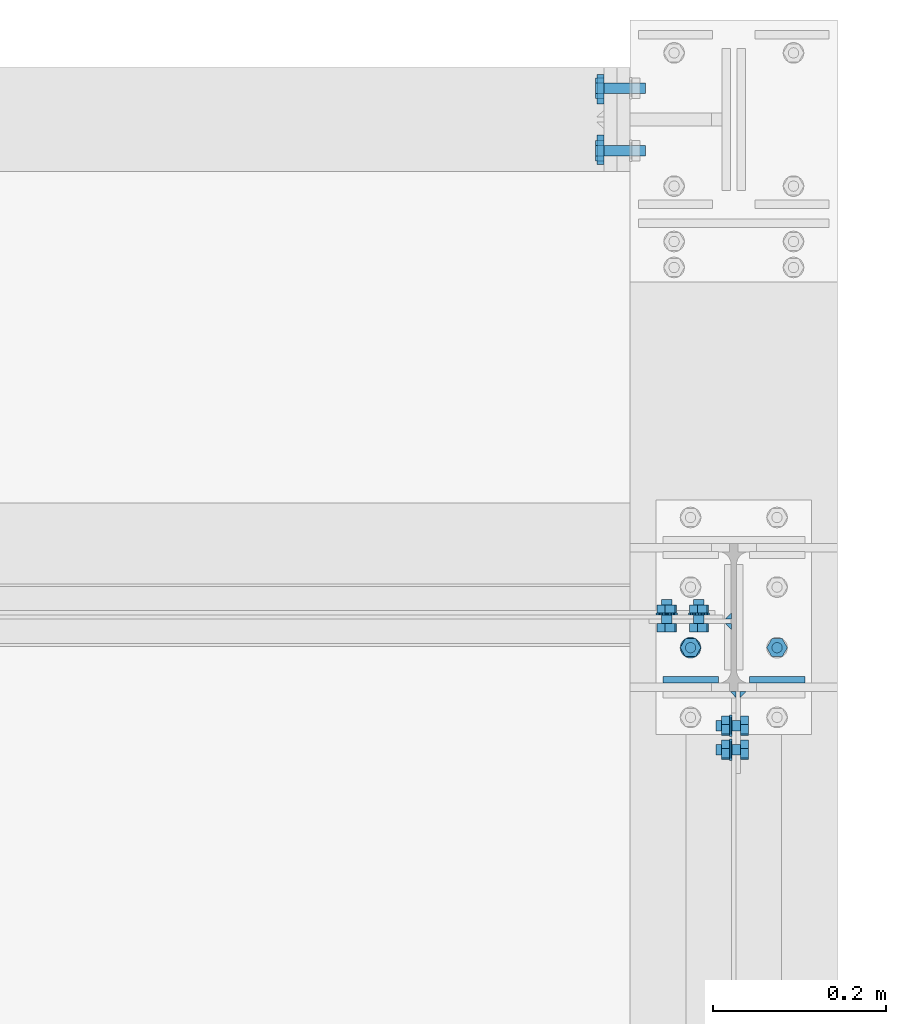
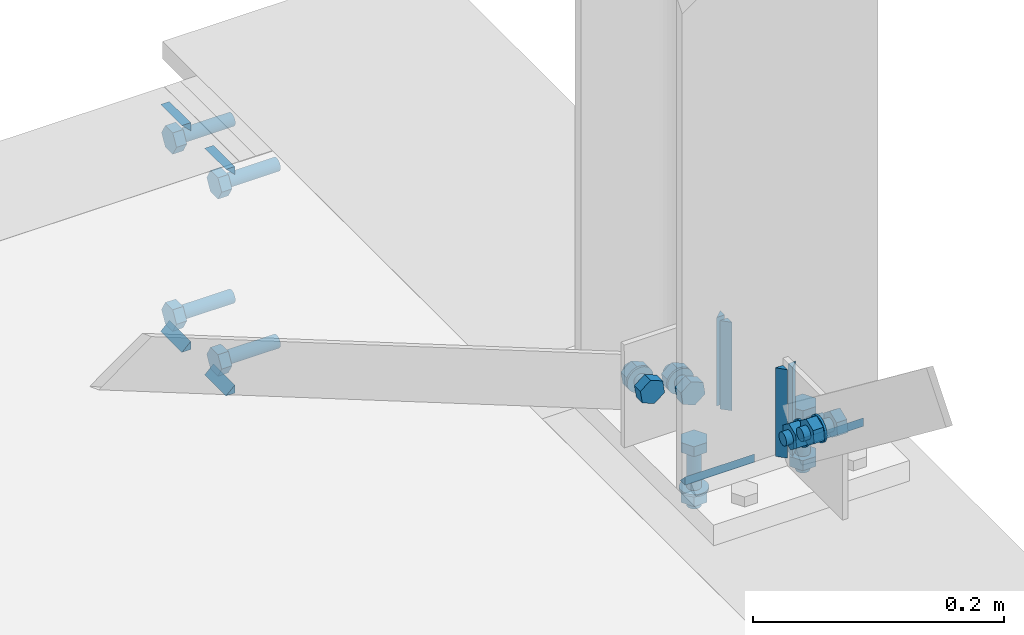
# One storey, part 63 of 66: 31 mechanical fasteners, 16 fasteners.
"""IFC4 building model written with IfcOpenShell, lengths in metres."""

from ifc_helpers import new_model, si_unit, frame, origin_with_axes, place, context, project, spatial, polyline, outline, extrude, type_object, element, save


model = new_model("IFC4")

# Units and contexts
model_context = context("Model", 3, precision=1e-05, world=origin_with_axes())
ifc_project = project(units=[si_unit("LENGTHUNIT", "METRE"), si_unit("AREAUNIT", "SQUARE_METRE"), si_unit("VOLUMEUNIT", "CUBIC_METRE"), si_unit("MASSUNIT", "GRAM", prefix="KILO"), si_unit("TIMEUNIT", "SECOND"), si_unit("PLANEANGLEUNIT", "RADIAN"), si_unit("SOLIDANGLEUNIT", "STERADIAN"), si_unit("THERMODYNAMICTEMPERATUREUNIT", "DEGREE_CELSIUS")], contexts=[model_context])

# Site, building, storey
placement_1 = place(None, origin_with_axes())
site = spatial("IfcSite", under=ifc_project, at=placement_1, Name="Italia", CompositionType="ELEMENT")
building = spatial("IfcBuilding", under=site, at=placement_1, Name="Uffici", CompositionType="ELEMENT")
storey_placement = place(None, frame((0.0, 0.0, 3.299999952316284), z_axis=(0.0, 0.0, 1.0), x_axis=(1.0, 0.0, 0.0)))
storey = spatial("IfcBuildingStorey", under=building, at=storey_placement, Name="Storey 1", CompositionType="ELEMENT", Elevation=3.299999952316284)

# Fasteners
fastener_type_1 = type_object("IfcFastenerType", Name="Collegamenti -005_-004 -015_-014 0115_0114", PredefinedType="WELD")
placement_2 = place(placement_1, origin_with_axes())
fastener_1_placement = place(placement_2, origin_with_axes())
element("IfcFastener", 1, at=fastener_1_placement, inside=storey, type_object=fastener_type_1, Name="Collegamenti -005_-004 -015_-014 0115_0114", context=model_context, shape_type="SweptSolid", body=[
    extrude(outline(polyline([(0.0, 0.0), (-0.00817299, 0.00792813), (0.0, 0.00792813), (0.0, 0.0)])), frame((13.8201, 5.37195, 3.28232), z_axis=(0.0, -1.0, 0.0), x_axis=(1.0, 0.0, 0.0)), (0.0, 0.0, 1.0), 0.0339999),
])
fastener_type_2 = type_object("IfcFastenerType", Name="Collegamenti -005_-004 -015_-014 0115_0114", PredefinedType="WELD")
fastener_2_placement = place(placement_2, origin_with_axes())
element("IfcFastener", 2, at=fastener_2_placement, inside=storey, type_object=fastener_type_2, Name="Collegamenti -005_-004 -015_-014 0115_0114", context=model_context, shape_type="SweptSolid", body=[
    extrude(outline(polyline([(0.0, 0.0), (0.00817299, -0.00792813), (0.0, -0.00792813), (0.0, 0.0)])), frame((13.8201, 5.33795, 3.07768), z_axis=(0.0, 1.0, 0.0), x_axis=(-1.0, 0.0, 0.0)), (0.0, 0.0, 1.0), 0.0339999),
])
fastener_type_3 = type_object("IfcFastenerType", Name="Collegamenti -005_-004 -015_-014 0115_0114", PredefinedType="WELD")
fastener_3_placement = place(placement_2, origin_with_axes())
element("IfcFastener", 3, at=fastener_3_placement, inside=storey, type_object=fastener_type_3, Name="Collegamenti -005_-004 -015_-014 0115_0114", context=model_context, shape_type="SweptSolid", body=[
    extrude(outline(polyline([(0.0, 0.0), (0.00817299, -0.00792813), (0.0, -0.00792813), (0.0, 0.0)])), frame((13.8201, 5.40805, 3.07768), z_axis=(0.0, 1.0, 0.0), x_axis=(-1.0, 0.0, 0.0)), (0.0, 0.0, 1.0), 0.0339999),
])
fastener_type_4 = type_object("IfcFastenerType", Name="Collegamenti -005_-004 -015_-014 0115_0114", PredefinedType="WELD")
fastener_4_placement = place(placement_2, origin_with_axes())
element("IfcFastener", 4, at=fastener_4_placement, inside=storey, type_object=fastener_type_4, Name="Collegamenti -005_-004 -015_-014 0115_0114", context=model_context, shape_type="SweptSolid", body=[
    extrude(outline(polyline([(0.0, 0.0), (-0.00817299, 0.00792813), (0.0, 0.00792813), (0.0, 0.0)])), frame((13.8201, 5.44205, 3.28232), z_axis=(0.0, -1.0, 0.0), x_axis=(1.0, 0.0, 0.0)), (0.0, 0.0, 1.0), 0.0339999),
])
fastener_type_5 = type_object("IfcFastenerType", Name="Collegamenti -005_-004 -015_-014 0115_0114", PredefinedType="WELD")
fastener_5_placement = place(placement_2, origin_with_axes())
element("IfcFastener", 5, at=fastener_5_placement, inside=storey, type_object=fastener_type_5, Name="Collegamenti -005_-004 -015_-014 0115_0114", context=model_context, shape_type="SweptSolid", body=[
    extrude(outline(polyline([(0.0, 0.0), (-0.00817299, 0.00792813), (0.0, 0.00792813), (0.0, 0.0)])), frame((13.8201, 5.37195, 3.28232), z_axis=(0.0, -1.0, 0.0), x_axis=(1.0, 0.0, 0.0)), (0.0, 0.0, 1.0), 0.0339999),
])
fastener_type_6 = type_object("IfcFastenerType", Name="Collegamenti -005_-004 -015_-014 0115_0114", PredefinedType="WELD")
fastener_6_placement = place(placement_2, origin_with_axes())
element("IfcFastener", 6, at=fastener_6_placement, inside=storey, type_object=fastener_type_6, Name="Collegamenti -005_-004 -015_-014 0115_0114", context=model_context, shape_type="SweptSolid", body=[
    extrude(outline(polyline([(0.0, 0.0), (0.00817299, -0.00792813), (0.0, -0.00792813), (0.0, 0.0)])), frame((13.8201, 5.33795, 3.07768), z_axis=(0.0, 1.0, 0.0), x_axis=(-1.0, 0.0, 0.0)), (0.0, 0.0, 1.0), 0.0339999),
])
fastener_type_7 = type_object("IfcFastenerType", Name="Collegamenti -005_-004 -015_-014 0115_0114", PredefinedType="WELD")
fastener_7_placement = place(placement_2, origin_with_axes())
element("IfcFastener", 7, at=fastener_7_placement, inside=storey, type_object=fastener_type_7, Name="Collegamenti -005_-004 -015_-014 0115_0114", context=model_context, shape_type="SweptSolid", body=[
    extrude(outline(polyline([(0.0, 0.0), (0.00817299, -0.00792813), (0.0, -0.00792813), (0.0, 0.0)])), frame((13.8201, 5.40805, 3.07768), z_axis=(0.0, 1.0, 0.0), x_axis=(-1.0, 0.0, 0.0)), (0.0, 0.0, 1.0), 0.0339999),
])
fastener_type_8 = type_object("IfcFastenerType", Name="Collegamenti -005_-004 -015_-014 0115_0114", PredefinedType="WELD")
fastener_8_placement = place(placement_2, origin_with_axes())
element("IfcFastener", 8, at=fastener_8_placement, inside=storey, type_object=fastener_type_8, Name="Collegamenti -005_-004 -015_-014 0115_0114", context=model_context, shape_type="SweptSolid", body=[
    extrude(outline(polyline([(0.0, 0.0), (-0.00817299, 0.00792813), (0.0, 0.00792813), (0.0, 0.0)])), frame((13.8201, 5.44205, 3.28232), z_axis=(0.0, -1.0, 0.0), x_axis=(1.0, 0.0, 0.0)), (0.0, 0.0, 1.0), 0.0339999),
])

# Mechanical fasteners
mechanical_fastener_type_1 = type_object("IfcMechanicalFastenerType", Name="Collegamenti -005_-004 -015_-014 0115_0114", PredefinedType="BOLT")
mechanical_fastener_1_placement = place(placement_2, origin_with_axes())
element("IfcMechanicalFastener", 9, at=mechanical_fastener_1_placement, inside=storey, type_object=mechanical_fastener_type_1, Name="Collegamenti -005_-004 -015_-014 0115_0114", NominalDiameter=0.0119997, context=model_context, shape_type="SweptSolid", body=[
    extrude(outline(polyline([(0.0, 0.0), (-0.0120001, 0.0), (-0.0180001, 0.0103924), (-0.0120001, 0.0207846), (0.0, 0.0207846), (0.00599957, 0.0103924), (0.0, 0.0)])), frame((13.82, 5.42, 3.08361), z_axis=(-1.0, 0.0, 0.0), x_axis=(0.0, -1.0, 0.0)), (0.0, 0.0, 1.0), 0.00960064),
])
mechanical_fastener_type_2 = type_object("IfcMechanicalFastenerType", Name="Collegamenti -005_-004 -015_-014 0115_0114", PredefinedType="BOLT")
mechanical_fastener_2_placement = place(placement_2, origin_with_axes())
element("IfcMechanicalFastener", 10, at=mechanical_fastener_2_placement, inside=storey, type_object=mechanical_fastener_type_2, Name="Collegamenti -005_-004 -015_-014 0115_0114", NominalDiameter=0.012, context=model_context, shape_type="SweptSolid", body=[
    extrude(outline(polyline([(0.0, 0.0), (-0.000204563, -0.00155282), (-0.000803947, -0.00300002), (-0.00175762, -0.00424266), (-0.00300026, -0.00519609), (-0.00444698, -0.00579548), (-0.00600004, -0.00600004), (-0.0075531, -0.00579548), (-0.00899982, -0.00519609), (-0.0102425, -0.00424266), (-0.0111961, -0.00300002), (-0.0117955, -0.00155282), (-0.0120001, 0.0), (-0.0117955, 0.00155282), (-0.0111961, 0.00300002), (-0.0102425, 0.00424266), (-0.00899982, 0.00519609), (-0.0075531, 0.00579548), (-0.00600004, 0.00600004), (-0.00444698, 0.00579548), (-0.00300026, 0.00519609), (-0.00175762, 0.00424266), (-0.000803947, 0.00300002), (-0.000204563, 0.00155282), (0.0, 0.0)])), frame((13.868, 5.42, 3.094), z_axis=(-1.0, 0.0, 0.0), x_axis=(0.0, -1.0, 0.0)), (0.0, 0.0, 1.0), 0.0479994),
])
mechanical_fastener_type_3 = type_object("IfcMechanicalFastenerType", Name="Collegamenti -005_-004 -015_-014 0115_0114", PredefinedType="BOLT")
mechanical_fastener_3_placement = place(placement_2, origin_with_axes())
element("IfcMechanicalFastener", 11, at=mechanical_fastener_3_placement, inside=storey, type_object=mechanical_fastener_type_3, Name="Collegamenti -005_-004 -015_-014 0115_0114", NominalDiameter=0.0119997, context=model_context, shape_type="SweptSolid", body=[
    extrude(outline(polyline([(0.0, 0.0), (-0.0120001, 0.0), (-0.0179996, 0.0103924), (-0.0120001, 0.0207846), (0.0, 0.0207846), (0.00600004, 0.0103924), (0.0, 0.0)])), frame((13.82, 5.348, 3.08361), z_axis=(-1.0, 0.0, 0.0), x_axis=(0.0, -1.0, 0.0)), (0.0, 0.0, 1.0), 0.00960064),
])
mechanical_fastener_type_4 = type_object("IfcMechanicalFastenerType", Name="Collegamenti -005_-004 -015_-014 0115_0114", PredefinedType="BOLT")
mechanical_fastener_4_placement = place(placement_2, origin_with_axes())
element("IfcMechanicalFastener", 12, at=mechanical_fastener_4_placement, inside=storey, type_object=mechanical_fastener_type_4, Name="Collegamenti -005_-004 -015_-014 0115_0114", NominalDiameter=0.012, context=model_context, shape_type="SweptSolid", body=[
    extrude(outline(polyline([(0.0, 0.0), (-0.000204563, -0.00155282), (-0.000803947, -0.00300002), (-0.00175762, -0.00424266), (-0.00300026, -0.00519609), (-0.00444698, -0.00579548), (-0.00600004, -0.00600004), (-0.0075531, -0.00579548), (-0.00899982, -0.00519609), (-0.0102425, -0.00424266), (-0.0111961, -0.00300002), (-0.0117955, -0.00155282), (-0.0120001, 0.0), (-0.0117955, 0.00155282), (-0.0111961, 0.00300002), (-0.0102425, 0.00424266), (-0.00899982, 0.00519609), (-0.0075531, 0.00579548), (-0.00600004, 0.00600004), (-0.00444698, 0.00579548), (-0.00300026, 0.00519609), (-0.00175762, 0.00424266), (-0.000803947, 0.00300002), (-0.000204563, 0.00155282), (0.0, 0.0)])), frame((13.868, 5.348, 3.094), z_axis=(-1.0, 0.0, 0.0), x_axis=(0.0, -1.0, 0.0)), (0.0, 0.0, 1.0), 0.0479994),
])
mechanical_fastener_type_5 = type_object("IfcMechanicalFastenerType", Name="Collegamenti -005_-004 -015_-014 0115_0114", PredefinedType="BOLT")
mechanical_fastener_5_placement = place(placement_2, origin_with_axes())
element("IfcMechanicalFastener", 13, at=mechanical_fastener_5_placement, inside=storey, type_object=mechanical_fastener_type_5, Name="Collegamenti -005_-004 -015_-014 0115_0114", NominalDiameter=0.0119997, context=model_context, shape_type="SweptSolid", body=[
    extrude(outline(polyline([(0.0, 0.0), (-0.0120001, 0.0), (-0.0180001, 0.0103922), (-0.0120001, 0.0207846), (0.0, 0.0207846), (0.00599957, 0.0103922), (0.0, 0.0)])), frame((13.82, 5.42, 3.25561), z_axis=(-1.0, 0.0, 0.0), x_axis=(0.0, -1.0, 0.0)), (0.0, 0.0, 1.0), 0.00960064),
])
mechanical_fastener_type_6 = type_object("IfcMechanicalFastenerType", Name="Collegamenti -005_-004 -015_-014 0115_0114", PredefinedType="BOLT")
mechanical_fastener_6_placement = place(placement_2, origin_with_axes())
element("IfcMechanicalFastener", 14, at=mechanical_fastener_6_placement, inside=storey, type_object=mechanical_fastener_type_6, Name="Collegamenti -005_-004 -015_-014 0115_0114", NominalDiameter=0.012, context=model_context, shape_type="SweptSolid", body=[
    extrude(outline(polyline([(0.0, 0.0), (-0.000204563, -0.00155282), (-0.000803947, -0.00300002), (-0.00175762, -0.00424266), (-0.00300026, -0.00519609), (-0.00444698, -0.00579548), (-0.00600004, -0.00600004), (-0.0075531, -0.00579548), (-0.00899982, -0.00519609), (-0.0102425, -0.00424266), (-0.0111961, -0.00300002), (-0.0117955, -0.00155282), (-0.0120001, 0.0), (-0.0117955, 0.00155282), (-0.0111961, 0.00300002), (-0.0102425, 0.00424266), (-0.00899982, 0.00519609), (-0.0075531, 0.00579548), (-0.00600004, 0.00600004), (-0.00444698, 0.00579548), (-0.00300026, 0.00519609), (-0.00175762, 0.00424266), (-0.000803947, 0.00300002), (-0.000204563, 0.00155282), (0.0, 0.0)])), frame((13.868, 5.42, 3.266), z_axis=(-1.0, 0.0, 0.0), x_axis=(0.0, -1.0, 0.0)), (0.0, 0.0, 1.0), 0.0479994),
])
mechanical_fastener_type_7 = type_object("IfcMechanicalFastenerType", Name="Collegamenti -005_-004 -015_-014 0115_0114", PredefinedType="BOLT")
mechanical_fastener_7_placement = place(placement_2, origin_with_axes())
element("IfcMechanicalFastener", 15, at=mechanical_fastener_7_placement, inside=storey, type_object=mechanical_fastener_type_7, Name="Collegamenti -005_-004 -015_-014 0115_0114", NominalDiameter=0.0119997, context=model_context, shape_type="SweptSolid", body=[
    extrude(outline(polyline([(0.0, 0.0), (-0.0120001, 0.0), (-0.0179996, 0.0103922), (-0.0120001, 0.0207846), (0.0, 0.0207846), (0.00600004, 0.0103922), (0.0, 0.0)])), frame((13.82, 5.348, 3.25561), z_axis=(-1.0, 0.0, 0.0), x_axis=(0.0, -1.0, 0.0)), (0.0, 0.0, 1.0), 0.00960064),
])
mechanical_fastener_type_8 = type_object("IfcMechanicalFastenerType", Name="Collegamenti -005_-004 -015_-014 0115_0114", PredefinedType="BOLT")
mechanical_fastener_8_placement = place(placement_2, origin_with_axes())
element("IfcMechanicalFastener", 16, at=mechanical_fastener_8_placement, inside=storey, type_object=mechanical_fastener_type_8, Name="Collegamenti -005_-004 -015_-014 0115_0114", NominalDiameter=0.012, context=model_context, shape_type="SweptSolid", body=[
    extrude(outline(polyline([(0.0, 0.0), (-0.000204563, -0.00155282), (-0.000803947, -0.00300002), (-0.00175762, -0.00424266), (-0.00300026, -0.00519609), (-0.00444698, -0.00579548), (-0.00600004, -0.00600004), (-0.0075531, -0.00579548), (-0.00899982, -0.00519609), (-0.0102425, -0.00424266), (-0.0111961, -0.00300002), (-0.0117955, -0.00155282), (-0.0120001, 0.0), (-0.0117955, 0.00155282), (-0.0111961, 0.00300002), (-0.0102425, 0.00424266), (-0.00899982, 0.00519609), (-0.0075531, 0.00579548), (-0.00600004, 0.00600004), (-0.00444698, 0.00579548), (-0.00300026, 0.00519609), (-0.00175762, 0.00424266), (-0.000803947, 0.00300002), (-0.000204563, 0.00155282), (0.0, 0.0)])), frame((13.868, 5.348, 3.266), z_axis=(-1.0, 0.0, 0.0), x_axis=(0.0, -1.0, 0.0)), (0.0, 0.0, 1.0), 0.0479994),
])
mechanical_fastener_type_9 = type_object("IfcMechanicalFastenerType", Name="Collegamento 0110_0205", PredefinedType="BOLT")
mechanical_fastener_9_placement = place(placement_2, origin_with_axes())
element("IfcMechanicalFastener", 17, at=mechanical_fastener_9_placement, inside=storey, type_object=mechanical_fastener_type_9, Name="Collegamento 0110_0205", NominalDiameter=0.0119998, context=model_context, shape_type="SweptSolid", body=[
    extrude(outline(polyline([(0.0, 0.0), (0.00952816, -0.00729442), (0.0206099, -0.0026896), (0.0221624, 0.00920939), (0.0126338, 0.0165038), (0.00155258, 0.0118992), (0.0, 0.0)])), frame((13.9775, 4.67822, 3.36857), z_axis=(1.0, 0.0, 0.0), x_axis=(0.0, 1.0, 0.0)), (0.0, 0.0, 1.0), 0.00960064),
])
mechanical_fastener_type_10 = type_object("IfcMechanicalFastenerType", Name="Collegamento 0110_0205", PredefinedType="BOLT")
mechanical_fastener_10_placement = place(placement_2, origin_with_axes())
element("IfcMechanicalFastener", 18, at=mechanical_fastener_10_placement, inside=storey, type_object=mechanical_fastener_type_10, Name="Collegamento 0110_0205", NominalDiameter=0.012, context=model_context, shape_type="SweptSolid", body=[
    extrude(outline(polyline([(0.0, 0.0), (-0.000204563, -0.00155282), (-0.000803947, -0.00300002), (-0.00175762, -0.00424266), (-0.00300026, -0.00519609), (-0.00444698, -0.00579548), (-0.00600004, -0.00600004), (-0.0075531, -0.00579548), (-0.00899982, -0.00519609), (-0.0102425, -0.00424266), (-0.0111961, -0.00300002), (-0.0117955, -0.00155282), (-0.0120001, 0.0), (-0.0117955, 0.00155282), (-0.0111961, 0.00300002), (-0.0102425, 0.00424266), (-0.00899982, 0.00519609), (-0.0075531, 0.00579548), (-0.00600004, 0.00600004), (-0.00444698, 0.00579548), (-0.00300026, 0.00519609), (-0.00175762, 0.00424266), (-0.000803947, 0.00300002), (-0.000204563, 0.00155282), (0.0, 0.0)])), frame((13.9495, 4.6953, 3.37317), z_axis=(1.0, 0.0, 0.0), x_axis=(0.0, 1.0, 0.0)), (0.0, 0.0, 1.0), 0.0279999),
])
mechanical_fastener_type_11 = type_object("IfcMechanicalFastenerType", Name="Collegamento 0110_0205", PredefinedType="BOLT")
mechanical_fastener_11_placement = place(placement_2, origin_with_axes())
element("IfcMechanicalFastener", 19, at=mechanical_fastener_11_placement, inside=storey, type_object=mechanical_fastener_type_11, Name="Collegamento 0110_0205", NominalDiameter=0.0119998, context=model_context, shape_type="SweptSolid", body=[
    extrude(outline(polyline([(0.0, 0.0), (0.00952816, -0.00729442), (0.0206099, -0.0026896), (0.0221624, 0.00920939), (0.0126338, 0.0165038), (0.00155258, 0.0118992), (0.0, 0.0)])), frame((13.9559, 4.67822, 3.36857), z_axis=(1.0, 0.0, 0.0), x_axis=(0.0, 1.0, 0.0)), (0.0, 0.0, 1.0), 0.00959969),
])
mechanical_fastener_type_12 = type_object("IfcMechanicalFastenerType", Name="Collegamento 0110_0205", PredefinedType="BOLT")
mechanical_fastener_12_placement = place(placement_2, origin_with_axes())
element("IfcMechanicalFastener", 20, at=mechanical_fastener_12_placement, inside=storey, type_object=mechanical_fastener_type_12, Name="Collegamento 0110_0205", NominalDiameter=0.024, context=model_context, shape_type="SweptSolid", body=[
    extrude(outline(polyline([(0.0, 0.0), (-0.000409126, -0.00310588), (-0.00160789, -0.00600004), (-0.00351477, -0.00848532), (-0.00600004, -0.0103922), (-0.00889444, -0.0115912), (-0.0120001, -0.0120001), (-0.0151057, -0.0115912), (-0.0180001, -0.0103922), (-0.0204854, -0.00848532), (-0.0223923, -0.00600004), (-0.023591, -0.00310588), (-0.0240002, 0.0), (-0.023591, 0.00310588), (-0.0223923, 0.00600004), (-0.0204854, 0.00848532), (-0.0180001, 0.0103922), (-0.0151057, 0.0115912), (-0.0120001, 0.0120001), (-0.00889444, 0.0115912), (-0.00600004, 0.0103922), (-0.00351477, 0.00848532), (-0.00160789, 0.00600004), (-0.000409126, 0.00310588), (0.0, 0.0)])), frame((13.9655, 4.7013, 3.37317), z_axis=(1.0, 0.0, 0.0), x_axis=(0.0, 1.0, 0.0)), (0.0, 0.0, 1.0), 0.00200081),
])
mechanical_fastener_type_13 = type_object("IfcMechanicalFastenerType", Name="Collegamento 0110_0205", PredefinedType="BOLT")
mechanical_fastener_13_placement = place(placement_2, origin_with_axes())
element("IfcMechanicalFastener", 21, at=mechanical_fastener_13_placement, inside=storey, type_object=mechanical_fastener_type_13, Name="Collegamento 0110_0205", NominalDiameter=0.0119998, context=model_context, shape_type="SweptSolid", body=[
    extrude(outline(polyline([(0.0, 0.0), (0.00952816, -0.00729442), (0.0206099, -0.0026896), (0.0221624, 0.00920939), (0.0126338, 0.0165038), (0.00155258, 0.011899), (0.0, 0.0)])), frame((13.9775, 4.65043, 3.38984), z_axis=(1.0, 0.0, 0.0), x_axis=(0.0, 1.0, 0.0)), (0.0, 0.0, 1.0), 0.00960064),
])
mechanical_fastener_type_14 = type_object("IfcMechanicalFastenerType", Name="Collegamento 0110_0205", PredefinedType="BOLT")
mechanical_fastener_14_placement = place(placement_2, origin_with_axes())
element("IfcMechanicalFastener", 22, at=mechanical_fastener_14_placement, inside=storey, type_object=mechanical_fastener_type_14, Name="Collegamento 0110_0205", NominalDiameter=0.012, context=model_context, shape_type="SweptSolid", body=[
    extrude(outline(polyline([(0.0, 0.0), (-0.000204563, -0.00155282), (-0.000803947, -0.00300002), (-0.00175762, -0.00424266), (-0.00300026, -0.00519609), (-0.00444698, -0.00579548), (-0.00600004, -0.00600004), (-0.0075531, -0.00579548), (-0.00899982, -0.00519609), (-0.0102425, -0.00424266), (-0.0111961, -0.00300002), (-0.0117955, -0.00155282), (-0.0120001, 0.0), (-0.0117955, 0.00155282), (-0.0111961, 0.00300002), (-0.0102425, 0.00424266), (-0.00899982, 0.00519609), (-0.0075531, 0.00579548), (-0.00600004, 0.00600004), (-0.00444698, 0.00579548), (-0.00300026, 0.00519609), (-0.00175762, 0.00424266), (-0.000803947, 0.00300002), (-0.000204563, 0.00155282), (0.0, 0.0)])), frame((13.9495, 4.66751, 3.39445), z_axis=(1.0, 0.0, 0.0), x_axis=(0.0, 1.0, 0.0)), (0.0, 0.0, 1.0), 0.0279999),
])
mechanical_fastener_type_15 = type_object("IfcMechanicalFastenerType", Name="Collegamento 0110_0205", PredefinedType="BOLT")
mechanical_fastener_15_placement = place(placement_2, origin_with_axes())
element("IfcMechanicalFastener", 23, at=mechanical_fastener_15_placement, inside=storey, type_object=mechanical_fastener_type_15, Name="Collegamento 0110_0205", NominalDiameter=0.0119998, context=model_context, shape_type="SweptSolid", body=[
    extrude(outline(polyline([(0.0, 0.0), (0.00952816, -0.00729442), (0.0206099, -0.0026896), (0.0221624, 0.00920939), (0.0126338, 0.0165038), (0.00155258, 0.011899), (0.0, 0.0)])), frame((13.9559, 4.65043, 3.38984), z_axis=(1.0, 0.0, 0.0), x_axis=(0.0, 1.0, 0.0)), (0.0, 0.0, 1.0), 0.00959969),
])
mechanical_fastener_type_16 = type_object("IfcMechanicalFastenerType", Name="Collegamento 0110_0205", PredefinedType="BOLT")
mechanical_fastener_16_placement = place(placement_2, origin_with_axes())
element("IfcMechanicalFastener", 24, at=mechanical_fastener_16_placement, inside=storey, type_object=mechanical_fastener_type_16, Name="Collegamento 0110_0205", NominalDiameter=0.024, context=model_context, shape_type="SweptSolid", body=[
    extrude(outline(polyline([(0.0, 0.0), (-0.000409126, -0.00310588), (-0.00160789, -0.00600004), (-0.00351477, -0.00848532), (-0.00600004, -0.0103922), (-0.00889444, -0.0115912), (-0.0120001, -0.0120001), (-0.0151057, -0.0115912), (-0.0180001, -0.0103922), (-0.0204854, -0.00848532), (-0.0223923, -0.00600004), (-0.023591, -0.00310588), (-0.0240002, 0.0), (-0.023591, 0.00310588), (-0.0223923, 0.00600004), (-0.0204854, 0.00848532), (-0.0180001, 0.0103922), (-0.0151057, 0.0115912), (-0.0120001, 0.0120001), (-0.00889444, 0.0115912), (-0.00600004, 0.0103922), (-0.00351477, 0.00848532), (-0.00160789, 0.00600004), (-0.000409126, 0.00310588), (0.0, 0.0)])), frame((13.9655, 4.67351, 3.39445), z_axis=(1.0, 0.0, 0.0), x_axis=(0.0, 1.0, 0.0)), (0.0, 0.0, 1.0), 0.00200081),
])

# Fasteners
fastener_type_9 = type_object("IfcFastenerType", Name="Collegamento 0110_0205", PredefinedType="WELD")
fastener_9_placement = place(placement_2, origin_with_axes())
element("IfcFastener", 25, at=fastener_9_placement, inside=storey, type_object=fastener_type_9, Name="Collegamento 0110_0205", context=model_context, shape_type="SweptSolid", body=[
    extrude(outline(polyline([(0.0, 0.0), (-0.00717354, 0.00695801), (0.0, 0.00695801), (0.0, 0.0)])), frame((13.9656, 4.72905, 3.41282), z_axis=(0.0, 0.0, -1.0), x_axis=(0.0, 1.0, 0.0)), (0.0, 0.0, 1.0), 0.0860994),
])
fastener_type_10 = type_object("IfcFastenerType", Name="Collegamento 0110_0205", PredefinedType="WELD")
fastener_10_placement = place(placement_2, origin_with_axes())
element("IfcFastener", 26, at=fastener_10_placement, inside=storey, type_object=fastener_type_10, Name="Collegamento 0110_0205", context=model_context, shape_type="SweptSolid", body=[
    extrude(outline(polyline([(0.0, 0.0), (-0.00717354, 0.00695801), (0.0, 0.00695801), (0.0, 0.0)])), frame((13.9844, 4.72905, 3.32672), z_axis=(0.0, 0.0, 1.0), x_axis=(0.0, 1.0, 0.0)), (0.0, 0.0, 1.0), 0.0860994),
])

# Mechanical fasteners
mechanical_fastener_type_17 = type_object("IfcMechanicalFastenerType", Name="Collegamento 0110_0209", PredefinedType="BOLT")
mechanical_fastener_17_placement = place(placement_2, origin_with_axes())
element("IfcMechanicalFastener", 27, at=mechanical_fastener_17_placement, inside=storey, type_object=mechanical_fastener_type_17, Name="Collegamento 0110_0209", NominalDiameter=0.0119999, context=model_context, shape_type="SweptSolid", body=[
    extrude(outline(polyline([(0.0, 0.0), (0.0111799, -0.00436044), (0.020546, 0.0031414), (0.0187321, 0.0150037), (0.00755215, 0.0193639), (-0.00181389, 0.011862), (0.0, 0.0)])), frame((13.9204, 4.8075, 3.35108), z_axis=(0.0, -1.0, 0.0), x_axis=(1.0, 0.0, 0.0)), (0.0, 0.0, 1.0), 0.00959969),
])
mechanical_fastener_type_18 = type_object("IfcMechanicalFastenerType", Name="Collegamento 0110_0209", PredefinedType="BOLT")
mechanical_fastener_18_placement = place(placement_2, origin_with_axes())
element("IfcMechanicalFastener", 28, at=mechanical_fastener_18_placement, inside=storey, type_object=mechanical_fastener_type_18, Name="Collegamento 0110_0209", NominalDiameter=0.012, context=model_context, shape_type="SweptSolid", body=[
    extrude(outline(polyline([(0.0, 0.0), (-0.000204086, -0.00155282), (-0.000802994, -0.00300002), (-0.00175667, -0.00424266), (-0.00299931, -0.00519609), (-0.00444698, -0.00579548), (-0.00599957, -0.00600004), (-0.00755215, -0.00579548), (-0.00899982, -0.00519609), (-0.0102425, -0.00424266), (-0.0111961, -0.00300002), (-0.011795, -0.00155282), (-0.0119991, 0.0), (-0.011795, 0.00155282), (-0.0111961, 0.00300002), (-0.0102425, 0.00424266), (-0.00899982, 0.00519609), (-0.00755215, 0.00579548), (-0.00599957, 0.00600004), (-0.00444698, 0.00579548), (-0.00299931, 0.00519609), (-0.00175667, 0.00424266), (-0.000802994, 0.00300002), (-0.000204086, 0.00155282), (0.0, 0.0)])), frame((13.9357, 4.8355, 3.35858), z_axis=(0.0, -1.0, 0.0), x_axis=(1.0, 0.0, 0.0)), (0.0, 0.0, 1.0), 0.0280004),
])
mechanical_fastener_type_19 = type_object("IfcMechanicalFastenerType", Name="Collegamento 0110_0209", PredefinedType="BOLT")
mechanical_fastener_19_placement = place(placement_2, origin_with_axes())
element("IfcMechanicalFastener", 29, at=mechanical_fastener_19_placement, inside=storey, type_object=mechanical_fastener_type_19, Name="Collegamento 0110_0209", NominalDiameter=0.0119999, context=model_context, shape_type="SweptSolid", body=[
    extrude(outline(polyline([(0.0, 0.0), (0.0111799, -0.00436044), (0.020546, 0.0031414), (0.0187321, 0.0150037), (0.00755215, 0.0193639), (-0.00181389, 0.011862), (0.0, 0.0)])), frame((13.9204, 4.8291, 3.35108), z_axis=(0.0, -1.0, 0.0), x_axis=(1.0, 0.0, 0.0)), (0.0, 0.0, 1.0), 0.00960016),
])
mechanical_fastener_type_20 = type_object("IfcMechanicalFastenerType", Name="Collegamento 0110_0209", PredefinedType="BOLT")
mechanical_fastener_20_placement = place(placement_2, origin_with_axes())
element("IfcMechanicalFastener", 30, at=mechanical_fastener_20_placement, inside=storey, type_object=mechanical_fastener_type_20, Name="Collegamento 0110_0209", NominalDiameter=0.024, context=model_context, shape_type="SweptSolid", body=[
    extrude(outline(polyline([(0.0, 0.0), (-0.000409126, -0.00310588), (-0.00160789, -0.00600004), (-0.00351524, -0.00848532), (-0.00600052, -0.0103922), (-0.00889397, -0.0115912), (-0.0120001, -0.0120001), (-0.0151062, -0.0115912), (-0.0179996, -0.0103922), (-0.0204849, -0.00848532), (-0.0223923, -0.00600004), (-0.023591, -0.00310588), (-0.0240002, 0.0), (-0.023591, 0.00310588), (-0.0223923, 0.00600004), (-0.0204849, 0.00848532), (-0.0179996, 0.0103922), (-0.0151062, 0.0115912), (-0.0120001, 0.0120001), (-0.00889397, 0.0115912), (-0.00600052, 0.0103922), (-0.00351524, 0.00848532), (-0.00160789, 0.00600004), (-0.000409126, 0.00310588), (0.0, 0.0)])), frame((13.9417, 4.8195, 3.35858), z_axis=(0.0, -1.0, 0.0), x_axis=(1.0, 0.0, 0.0)), (0.0, 0.0, 1.0), 0.00199986),
])
mechanical_fastener_type_21 = type_object("IfcMechanicalFastenerType", Name="Collegamento 0110_0209", PredefinedType="BOLT")
mechanical_fastener_21_placement = place(placement_2, origin_with_axes())
element("IfcMechanicalFastener", 31, at=mechanical_fastener_21_placement, inside=storey, type_object=mechanical_fastener_type_21, Name="Collegamento 0110_0209", NominalDiameter=0.0119999, context=model_context, shape_type="SweptSolid", body=[
    extrude(outline(polyline([(0.0, 0.0), (0.0111799, -0.0043602), (0.020546, 0.00314164), (0.0187321, 0.0150037), (0.00755215, 0.0193641), (-0.00181389, 0.0118623), (0.0, 0.0)])), frame((13.8831, 4.8075, 3.36561), z_axis=(0.0, -1.0, 0.0), x_axis=(1.0, 0.0, 0.0)), (0.0, 0.0, 1.0), 0.00959969),
])
mechanical_fastener_type_22 = type_object("IfcMechanicalFastenerType", Name="Collegamento 0110_0209", PredefinedType="BOLT")
mechanical_fastener_22_placement = place(placement_2, origin_with_axes())
element("IfcMechanicalFastener", 32, at=mechanical_fastener_22_placement, inside=storey, type_object=mechanical_fastener_type_22, Name="Collegamento 0110_0209", NominalDiameter=0.012, context=model_context, shape_type="SweptSolid", body=[
    extrude(outline(polyline([(0.0, 0.0), (-0.000204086, -0.00155282), (-0.000802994, -0.00300002), (-0.00175667, -0.00424266), (-0.00299931, -0.00519609), (-0.00444698, -0.00579548), (-0.00599957, -0.00600004), (-0.00755215, -0.00579548), (-0.00899982, -0.00519609), (-0.0102425, -0.00424266), (-0.0111961, -0.00300002), (-0.011795, -0.00155282), (-0.0119991, 0.0), (-0.011795, 0.00155282), (-0.0111961, 0.00300002), (-0.0102425, 0.00424266), (-0.00899982, 0.00519609), (-0.00755215, 0.00579548), (-0.00599957, 0.00600004), (-0.00444698, 0.00579548), (-0.00299931, 0.00519609), (-0.00175667, 0.00424266), (-0.000802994, 0.00300002), (-0.000204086, 0.00155282), (0.0, 0.0)])), frame((13.8985, 4.8355, 3.37312), z_axis=(0.0, -1.0, 0.0), x_axis=(1.0, 0.0, 0.0)), (0.0, 0.0, 1.0), 0.0280004),
])
mechanical_fastener_type_23 = type_object("IfcMechanicalFastenerType", Name="Collegamento 0110_0209", PredefinedType="BOLT")
mechanical_fastener_23_placement = place(placement_2, origin_with_axes())
element("IfcMechanicalFastener", 33, at=mechanical_fastener_23_placement, inside=storey, type_object=mechanical_fastener_type_23, Name="Collegamento 0110_0209", NominalDiameter=0.0119999, context=model_context, shape_type="SweptSolid", body=[
    extrude(outline(polyline([(0.0, 0.0), (0.0111799, -0.0043602), (0.020546, 0.00314164), (0.0187321, 0.0150037), (0.00755215, 0.0193641), (-0.00181389, 0.0118623), (0.0, 0.0)])), frame((13.8831, 4.8291, 3.36561), z_axis=(0.0, -1.0, 0.0), x_axis=(1.0, 0.0, 0.0)), (0.0, 0.0, 1.0), 0.00960016),
])
mechanical_fastener_type_24 = type_object("IfcMechanicalFastenerType", Name="Collegamento 0110_0209", PredefinedType="BOLT")
mechanical_fastener_24_placement = place(placement_2, origin_with_axes())
element("IfcMechanicalFastener", 34, at=mechanical_fastener_24_placement, inside=storey, type_object=mechanical_fastener_type_24, Name="Collegamento 0110_0209", NominalDiameter=0.024, context=model_context, shape_type="SweptSolid", body=[
    extrude(outline(polyline([(0.0, 0.0), (-0.000409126, -0.00310588), (-0.00160789, -0.00600004), (-0.00351524, -0.00848532), (-0.00600052, -0.0103922), (-0.00889397, -0.0115912), (-0.0120001, -0.0120001), (-0.0151062, -0.0115912), (-0.0179996, -0.0103922), (-0.0204849, -0.00848532), (-0.0223923, -0.00600004), (-0.023591, -0.00310588), (-0.0240002, 0.0), (-0.023591, 0.00310588), (-0.0223923, 0.00600004), (-0.0204849, 0.00848532), (-0.0179996, 0.0103922), (-0.0151062, 0.0115912), (-0.0120001, 0.0120001), (-0.00889397, 0.0115912), (-0.00600052, 0.0103922), (-0.00351524, 0.00848532), (-0.00160789, 0.00600004), (-0.000409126, 0.00310588), (0.0, 0.0)])), frame((13.9045, 4.8195, 3.37312), z_axis=(0.0, -1.0, 0.0), x_axis=(1.0, 0.0, 0.0)), (0.0, 0.0, 1.0), 0.00199986),
])

# Fasteners
fastener_type_11 = type_object("IfcFastenerType", Name="Collegamento 0110_0209", PredefinedType="WELD")
fastener_11_placement = place(placement_2, origin_with_axes())
element("IfcFastener", 35, at=fastener_11_placement, inside=storey, type_object=fastener_type_11, Name="Collegamento 0110_0209", context=model_context, shape_type="SweptSolid", body=[
    extrude(outline(polyline([(0.0, 0.0), (-0.00695801, -0.00717258), (-0.00695801, 0.0), (0.0, 0.0)])), frame((13.9671, 4.81941, 3.41309), z_axis=(0.0, 0.0, -1.0), x_axis=(0.0, 1.0, 0.0)), (0.0, 0.0, 1.0), 0.0860991),
])
fastener_type_12 = type_object("IfcFastenerType", Name="Collegamento 0110_0209", PredefinedType="WELD")
fastener_12_placement = place(placement_2, origin_with_axes())
element("IfcFastener", 36, at=fastener_12_placement, inside=storey, type_object=fastener_type_12, Name="Collegamento 0110_0209", context=model_context, shape_type="SweptSolid", body=[
    extrude(outline(polyline([(0.0, 0.0), (0.00695801, 0.00717258), (0.00695801, 0.0), (0.0, 0.0)])), frame((13.9671, 4.80059, 3.32699), z_axis=(0.0, 0.0, 1.0), x_axis=(0.0, 1.0, 0.0)), (0.0, 0.0, 1.0), 0.0860999),
])
fastener_type_13 = type_object("IfcFastenerType", Name="Collegamento 0110_0210", PredefinedType="WELD")
fastener_13_placement = place(placement_2, origin_with_axes())
element("IfcFastener", 37, at=fastener_13_placement, inside=storey, type_object=fastener_type_13, Name="Collegamento 0110_0210", context=model_context, shape_type="SweptSolid", body=[
    extrude(outline(polyline([(0.0, 0.0), (0.00792837, 0.00817347), (0.00792837, 0.0), (0.0, 0.0)])), frame((14.0521, 4.74638, 3.31995), z_axis=(-1.0, 0.0, 0.0), x_axis=(0.0, -1.0, 0.0)), (0.0, 0.0, 1.0), 0.0641003),
])
fastener_type_14 = type_object("IfcFastenerType", Name="Collegamento 0110_0210", PredefinedType="WELD")
fastener_14_placement = place(placement_2, origin_with_axes())
element("IfcFastener", 38, at=fastener_14_placement, inside=storey, type_object=fastener_type_14, Name="Collegamento 0110_0210", context=model_context, shape_type="SweptSolid", body=[
    extrude(outline(polyline([(0.0, 0.0), (0.00792837, 0.00817347), (0.00792837, 0.0), (0.0, 0.0)])), frame((13.9521, 4.74638, 3.31995), z_axis=(-1.0, 0.0, 0.0), x_axis=(0.0, -1.0, 0.0)), (0.0, 0.0, 1.0), 0.0641003),
])
fastener_type_15 = type_object("IfcFastenerType", Name="Collegamento 0110_0210", PredefinedType="WELD")
fastener_15_placement = place(placement_2, origin_with_axes())
element("IfcFastener", 39, at=fastener_15_placement, inside=storey, type_object=fastener_type_15, Name="Collegamento 0110_0210", context=model_context, shape_type="SweptSolid", body=[
    extrude(outline(polyline([(0.0, 0.0), (0.00792837, 0.00817347), (0.00792837, 0.0), (0.0, 0.0)])), frame((14.0521, 4.74638, 3.31995), z_axis=(-1.0, 0.0, 0.0), x_axis=(0.0, -1.0, 0.0)), (0.0, 0.0, 1.0), 0.0641003),
])
fastener_type_16 = type_object("IfcFastenerType", Name="Collegamento 0110_0210", PredefinedType="WELD")
fastener_16_placement = place(placement_2, origin_with_axes())
element("IfcFastener", 40, at=fastener_16_placement, inside=storey, type_object=fastener_type_16, Name="Collegamento 0110_0210", context=model_context, shape_type="SweptSolid", body=[
    extrude(outline(polyline([(0.0, 0.0), (0.00792837, 0.00817347), (0.00792837, 0.0), (0.0, 0.0)])), frame((13.9521, 4.74638, 3.31995), z_axis=(-1.0, 0.0, 0.0), x_axis=(0.0, -1.0, 0.0)), (0.0, 0.0, 1.0), 0.0641003),
])

# Mechanical fasteners
mechanical_fastener_type_25 = type_object("IfcMechanicalFastenerType", Name="Collegamento 0110_0210", PredefinedType="BOLT")
mechanical_fastener_25_placement = place(placement_2, origin_with_axes())
element("IfcMechanicalFastener", 41, at=mechanical_fastener_25_placement, inside=storey, type_object=mechanical_fastener_type_25, Name="Collegamento 0110_0210", NominalDiameter=0.0119997, context=model_context, shape_type="SweptSolid", body=[
    extrude(outline(polyline([(0.0, 0.0), (0.0, 0.0120001), (0.0103927, 0.0180006), (0.0207849, 0.0120001), (0.0207849, 0.0), (0.0103927, -0.00599957), (0.0, 0.0)])), frame((13.926, 4.76911, 3.32), z_axis=(0.0, 0.0, 1.0), x_axis=(0.0, 1.0, 0.0)), (0.0, 0.0, 1.0), 0.00959992),
])
mechanical_fastener_type_26 = type_object("IfcMechanicalFastenerType", Name="Collegamento 0110_0210", PredefinedType="BOLT")
mechanical_fastener_26_placement = place(placement_2, origin_with_axes())
element("IfcMechanicalFastener", 42, at=mechanical_fastener_26_placement, inside=storey, type_object=mechanical_fastener_type_26, Name="Collegamento 0110_0210", NominalDiameter=0.012, context=model_context, shape_type="SweptSolid", body=[
    extrude(outline(polyline([(0.0, 0.0), (-0.000204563, -0.00155258), (-0.000803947, -0.00300026), (-0.00175762, -0.0042429), (-0.00300026, -0.00519657), (-0.00444698, -0.00579548), (-0.00600004, -0.00599957), (-0.0075531, -0.00579548), (-0.00899982, -0.00519657), (-0.0102425, -0.0042429), (-0.0111961, -0.00300026), (-0.0117955, -0.00155258), (-0.0120001, 0.0), (-0.0117955, 0.00155258), (-0.0111961, 0.00300026), (-0.0102425, 0.0042429), (-0.00899982, 0.00519657), (-0.0075531, 0.00579548), (-0.00600004, 0.00599957), (-0.00444698, 0.00579548), (-0.00300026, 0.00519657), (-0.00175762, 0.0042429), (-0.000803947, 0.00300026), (-0.000204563, 0.00155258), (0.0, 0.0)])), frame((13.92, 4.7855, 3.265), z_axis=(0.0, 0.0, 1.0), x_axis=(0.0, 1.0, 0.0)), (0.0, 0.0, 1.0), 0.0550001),
])
mechanical_fastener_type_27 = type_object("IfcMechanicalFastenerType", Name="Collegamento 0110_0210", PredefinedType="BOLT")
mechanical_fastener_27_placement = place(placement_2, origin_with_axes())
element("IfcMechanicalFastener", 43, at=mechanical_fastener_27_placement, inside=storey, type_object=mechanical_fastener_type_27, Name="Collegamento 0110_0210", NominalDiameter=0.0119997, context=model_context, shape_type="SweptSolid", body=[
    extrude(outline(polyline([(0.0, 0.0), (0.0, 0.0120001), (0.0103927, 0.0180006), (0.0207849, 0.0120001), (0.0207849, 0.0), (0.0103927, -0.00599957), (0.0, 0.0)])), frame((13.926, 4.76911, 3.2714), z_axis=(0.0, 0.0, 1.0), x_axis=(0.0, 1.0, 0.0)), (0.0, 0.0, 1.0), 0.00959992),
])
mechanical_fastener_type_28 = type_object("IfcMechanicalFastenerType", Name="Collegamento 0110_0210", PredefinedType="BOLT")
mechanical_fastener_28_placement = place(placement_2, origin_with_axes())
element("IfcMechanicalFastener", 44, at=mechanical_fastener_28_placement, inside=storey, type_object=mechanical_fastener_type_28, Name="Collegamento 0110_0210", NominalDiameter=0.024, context=model_context, shape_type="SweptSolid", body=[
    extrude(outline(polyline([(0.0, 0.0), (-0.000409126, -0.00310612), (-0.00160789, -0.00599957), (-0.00351477, -0.00848484), (-0.00600004, -0.0103922), (-0.00889444, -0.011591), (-0.0120001, -0.0120001), (-0.0151057, -0.011591), (-0.0180001, -0.0103922), (-0.0204854, -0.00848484), (-0.0223923, -0.00599957), (-0.023591, -0.00310612), (-0.0240002, 0.0), (-0.023591, 0.00310612), (-0.0223923, 0.00599957), (-0.0204854, 0.00848484), (-0.0180001, 0.0103922), (-0.0151057, 0.011591), (-0.0120001, 0.0120001), (-0.00889444, 0.011591), (-0.00600004, 0.0103922), (-0.00351477, 0.00848484), (-0.00160789, 0.00599957), (-0.000409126, 0.00310612), (0.0, 0.0)])), frame((13.92, 4.7915, 3.281), z_axis=(0.0, 0.0, 1.0), x_axis=(0.0, 1.0, 0.0)), (0.0, 0.0, 1.0), 0.00200009),
])
mechanical_fastener_type_29 = type_object("IfcMechanicalFastenerType", Name="Collegamento 0110_0210", PredefinedType="BOLT")
mechanical_fastener_29_placement = place(placement_2, origin_with_axes())
element("IfcMechanicalFastener", 45, at=mechanical_fastener_29_placement, inside=storey, type_object=mechanical_fastener_type_29, Name="Collegamento 0110_0210", NominalDiameter=0.0119997, context=model_context, shape_type="SweptSolid", body=[
    extrude(outline(polyline([(0.0, 0.0), (0.0, 0.0120001), (0.0103927, 0.0179996), (0.0207849, 0.0120001), (0.0207849, 0.0), (0.0103927, -0.00600052), (0.0, 0.0)])), frame((14.026, 4.76911, 3.32), z_axis=(0.0, 0.0, 1.0), x_axis=(0.0, 1.0, 0.0)), (0.0, 0.0, 1.0), 0.00959992),
])
mechanical_fastener_type_30 = type_object("IfcMechanicalFastenerType", Name="Collegamento 0110_0210", PredefinedType="BOLT")
mechanical_fastener_30_placement = place(placement_2, origin_with_axes())
element("IfcMechanicalFastener", 46, at=mechanical_fastener_30_placement, inside=storey, type_object=mechanical_fastener_type_30, Name="Collegamento 0110_0210", NominalDiameter=0.012, context=model_context, shape_type="SweptSolid", body=[
    extrude(outline(polyline([(0.0, 0.0), (-0.000204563, -0.00155258), (-0.000803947, -0.00300026), (-0.00175762, -0.0042429), (-0.00300026, -0.00519657), (-0.00444698, -0.00579548), (-0.00600004, -0.00599957), (-0.0075531, -0.00579548), (-0.00899982, -0.00519657), (-0.0102425, -0.0042429), (-0.0111961, -0.00300026), (-0.0117955, -0.00155258), (-0.0120001, 0.0), (-0.0117955, 0.00155258), (-0.0111961, 0.00300026), (-0.0102425, 0.0042429), (-0.00899982, 0.00519657), (-0.0075531, 0.00579548), (-0.00600004, 0.00599957), (-0.00444698, 0.00579548), (-0.00300026, 0.00519657), (-0.00175762, 0.0042429), (-0.000803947, 0.00300026), (-0.000204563, 0.00155258), (0.0, 0.0)])), frame((14.02, 4.7855, 3.265), z_axis=(0.0, 0.0, 1.0), x_axis=(0.0, 1.0, 0.0)), (0.0, 0.0, 1.0), 0.0550001),
])
mechanical_fastener_type_31 = type_object("IfcMechanicalFastenerType", Name="Collegamento 0110_0210", PredefinedType="BOLT")
mechanical_fastener_31_placement = place(placement_2, origin_with_axes())
element("IfcMechanicalFastener", 47, at=mechanical_fastener_31_placement, inside=storey, type_object=mechanical_fastener_type_31, Name="Collegamento 0110_0210", NominalDiameter=0.0119997, context=model_context, shape_type="SweptSolid", body=[
    extrude(outline(polyline([(0.0, 0.0), (0.0, 0.0120001), (0.0103927, 0.0179996), (0.0207849, 0.0120001), (0.0207849, 0.0), (0.0103927, -0.00600052), (0.0, 0.0)])), frame((14.026, 4.76911, 3.2714), z_axis=(0.0, 0.0, 1.0), x_axis=(0.0, 1.0, 0.0)), (0.0, 0.0, 1.0), 0.00959992),
])

save(model, "model.ifc")
